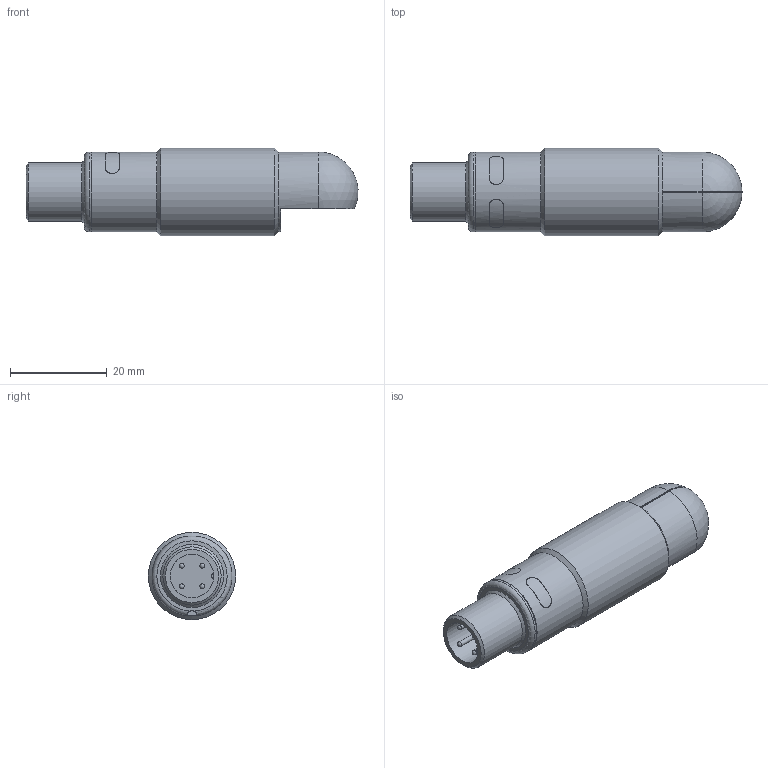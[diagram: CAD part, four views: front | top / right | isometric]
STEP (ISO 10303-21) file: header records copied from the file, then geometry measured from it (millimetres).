
FILE_DESCRIPTION((''),'2;1');
FILE_NAME('J:\Projekte\Kunststoff-Blechteile\Zeichnungen\Bibliothek Inventor\3D Solids\nero\STP\pico+35\nero-35_WK_X.stp','2012-02-27T13:33:29',('Oliver Liedtke'),(''),'Autodesk Inventor 2009','Autodesk Inventor 2009','');
FILE_SCHEMA(('AUTOMOTIVE_DESIGN { 1 0 10303 214 1 1 1 1 }'));
Length unit declared in the file: millimetre
Products named in the file (1): nero-35_WK_X
Bounding box: 68.48 x 18 x 18 mm (x, y, z)
Volume: 12695.6 mm3; surface area: 4016.5 mm2
Topology: 1 solids, 1 shells, 52 faces, 119 edges, 73 vertices
Faces by surface type: plane 19, cylinder 18, sphere 6, bspline 4, cone 4, torus 1
Full cylindrical faces by diameter (mm): 1 x4, 9 x1, 9.6 x1, 12 x1, 14 x1, 16.3 x1, 16.5 x2, 18 x1
Entity records: 3482 total; most frequent: CARTESIAN_POINT 2328, DIRECTION 226, ORIENTED_EDGE 180, AXIS2_PLACEMENT_3D 101, EDGE_CURVE 90, EDGE_LOOP 81, VERTEX_POINT 69, CIRCLE 52
